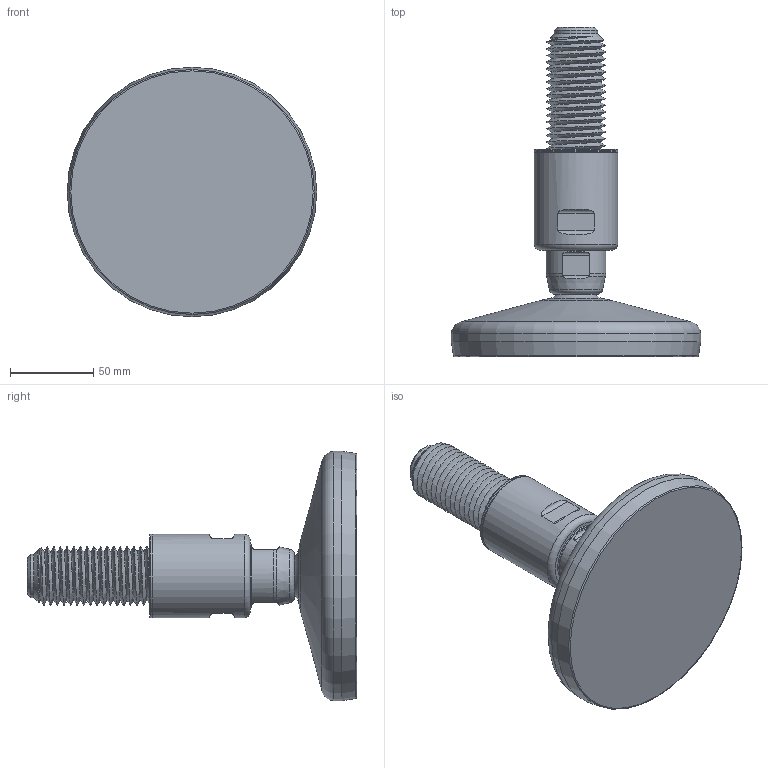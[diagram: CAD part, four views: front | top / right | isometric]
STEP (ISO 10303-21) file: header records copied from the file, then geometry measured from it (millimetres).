
FILE_DESCRIPTION(/* description */ (''),/* implementation_level */ '2;1');
FILE_NAME(/* name */ '\\NAS-MODULA\Backup-nas\Pubblica\DISEGNI 2017\13. LINEA 3A\LINEA PIEDI 3A\ASSIEMI\3D\27224-3A\27224-3A.stp',/* time_stamp */ '2019-01-25T17:15:09+01:00',/* author */ ('Martin'),/* organization */ (''),/* preprocessor_version */ 'ST-DEVELOPER v17',/* originating_system */ 'Autodesk Inventor 2018',/* authorisation */ '');
FILE_SCHEMA (('AUTOMOTIVE_DESIGN { 1 0 10303 214 3 1 1 }'));
Length unit declared in the file: millimetre
Products named in the file (8): 27224-3A; B27170-3A - GOMMA VULCANIZZATA; B27170-3A - SCODELLA; 27I36135-3A; BOCTC5060-3A; GUARNIZIONE D150 VULCANIZZATA; GE5040-3A; GI4236-3A
Assembly tree (7 placements, depth 2):
  27224-3A
    B27170-3A - GOMMA VULCANIZZATA
    B27170-3A - SCODELLA
    27I36135-3A
    BOCTC5060-3A
    GUARNIZIONE D150 VULCANIZZATA
    GE5040-3A
    GI4236-3A
Bounding box: 150 x 198 x 150 mm (x, y, z)
Volume: 654179.4 mm3; surface area: 140106.1 mm2
Topology: 7 solids, 7 shells, 118 faces, 306 edges, 219 vertices
Faces by surface type: cylinder 39, plane 36, torus 20, cone 13, bspline 10
Full cylindrical faces by diameter (mm): 8.5 x2, 10 x1, 10.5 x2, 12 x2, 16 x2, 17 x1, 22.2 x1, 22.4 x1, 26 x1, 32 x4, 36 x2, 36.5 x1, 39 x2, 40.5 x2, 42 x2, 45.5 x2, 50 x2
Entity records: 9384 total; most frequent: CARTESIAN_POINT 6039, DIRECTION 713, ORIENTED_EDGE 612, AXIS2_PLACEMENT_3D 323, EDGE_CURVE 306, VERTEX_POINT 219, CIRCLE 200, EDGE_LOOP 145
